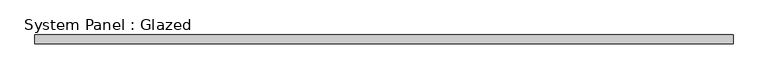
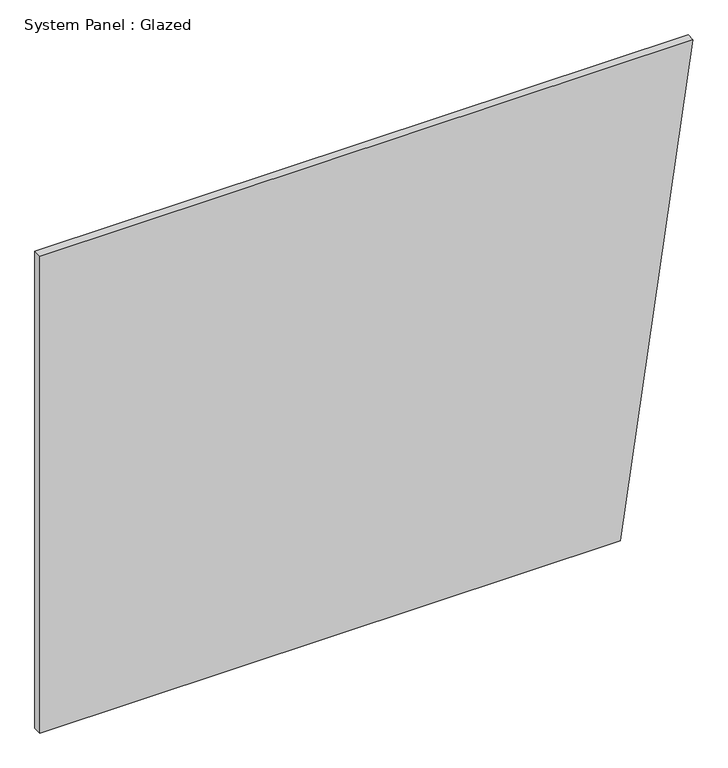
"""IFC4 building model written with IfcOpenShell, lengths in millimetres: plate geometry, System Panel : Glazed."""

from ifc_helpers import new_model, si_unit, frame, origin, place, context, project, spatial, polyline, outline, extrude, source, transform, mapped, element, save


def system_panel_glazed_a1e5ac54(model_context):
    return source(origin(), model_context, "Body", "SweptSolid", [
        extrude(outline(polyline([(0.0, -986.7625899), (0.0, 767.4820143), (1524.0, 986.7625899), (1524.0, -986.7625899), (0.0, -986.7625899)])), frame((0.0, 19.05, 0.0), z_axis=(0.0, 1.0, 0.0), x_axis=(0.0, 0.0, 1.0)), (0.0, 0.0, 1.0), 25.4),
    ])


if __name__ == "__main__":
    model = new_model("IFC4")
    model_context = context("Model", 3, world=origin())
    ifc_project = project(units=[si_unit("LENGTHUNIT", "METRE", prefix="MILLI")], contexts=[model_context])
    site = spatial("IfcSite", under=ifc_project)
    building = spatial("IfcBuilding", under=site)
    placement = place(None, origin())
    system_panel_glazed_shape = system_panel_glazed_a1e5ac54(model_context)
    element("IfcPlate", 1, ObjectType="System Panel : Glazed", at=placement, inside=building, context=model_context, shape_type="MappedRepresentation", body=[
        mapped(system_panel_glazed_shape, transform((0.0, 0.0, 0.0), x_axis=(1.0, 0.0, 0.0), y_axis=(0.0, 1.0, 0.0), z_axis=(0.0, 0.0, 1.0))),
    ])
    save(model, "model.ifc")
